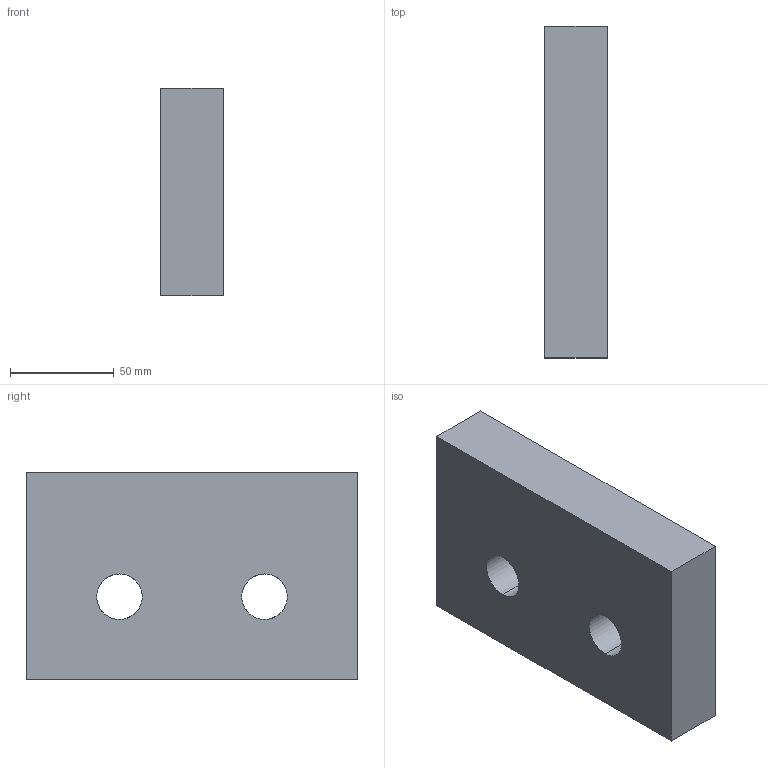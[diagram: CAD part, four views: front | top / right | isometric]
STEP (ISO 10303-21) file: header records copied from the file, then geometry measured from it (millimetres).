
FILE_DESCRIPTION(('CATIA V5 STEP Exchange'),'2;1');
FILE_NAME('C:\Users\Raffaele\Desktop\3D X SITO CF\A612\A611-100-1601\A612-100-1601.stp','2019-07-12T12:52:55+00:00',('none'),('none'),'CATIA Version 5 Release 20 GA (IN-10)','CATIA V5 STEP AP203','none');
FILE_SCHEMA(('CONFIG_CONTROL_DESIGN'));
Length unit declared in the file: millimetre
Products named in the file (1): A612-100-1601
Bounding box: 30 x 160 x 100 mm (x, y, z)
Volume: 457192 mm3; surface area: 50226.4 mm2
Topology: 1 solids, 1 shells, 10 faces, 32 edges, 24 vertices
Faces by surface type: plane 6, cylinder 4
Entity records: 506 total; most frequent: CARTESIAN_POINT 179, ORIENTED_EDGE 64, DIRECTION 44, EDGE_CURVE 32, VERTEX_POINT 24, AXIS2_PLACEMENT_3D 19, VECTOR 16, LINE 16
